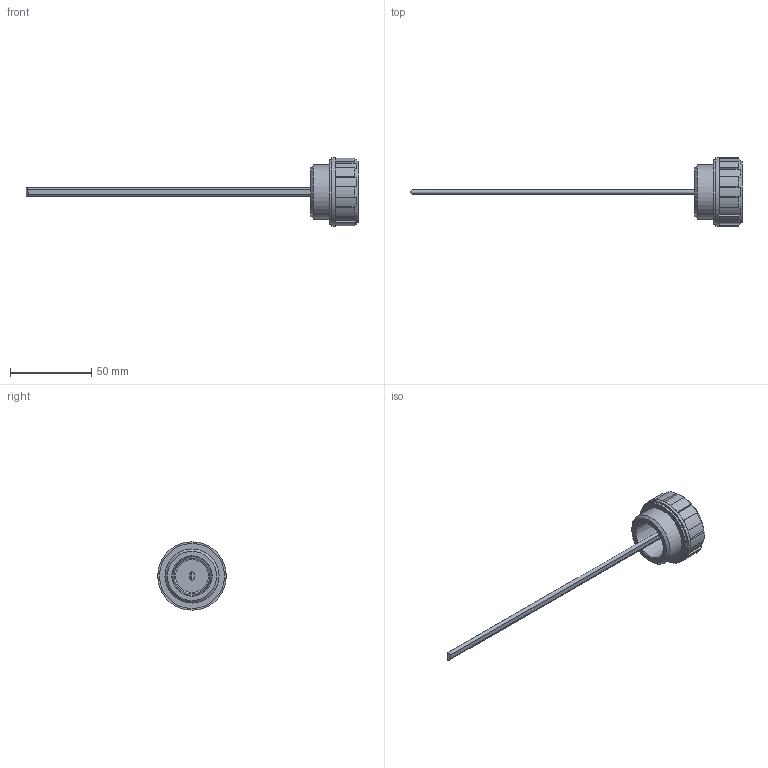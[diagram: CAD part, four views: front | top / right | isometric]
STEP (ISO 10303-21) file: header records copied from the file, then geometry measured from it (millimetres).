
FILE_DESCRIPTION( ( 'STEP AP203' ), '1' );
FILE_NAME( 'C:/Temp/Ganter_Step_05_03_2020/data/3_5/gn548_1/Plug GN 548.1-G1-B.stp', '2020-03-12T13:35:46', ( 'License CC BY-ND 4.0' ), ( 'CADENAS' ), ' ', 'PARTsolutions', ' ' );
FILE_SCHEMA( ( 'CONFIG_CONTROL_DESIGN' ) );
Length unit declared in the file: millimetre
Products named in the file (1): _Plug GN 548.1-G1-B
Bounding box: 204 x 42 x 42 mm (x, y, z)
Volume: 24638.9 mm3; surface area: 10904 mm2
Topology: 1 solids, 1 shells, 62 faces, 159 edges, 105 vertices
Faces by surface type: plane 31, cylinder 26, cone 3, torus 2
Full cylindrical faces by diameter (mm): 33.249 x1, 38.182 x1, 39.9 x1, 42 x1
Entity records: 1909 total; most frequent: CARTESIAN_POINT 376, DIRECTION 315, ORIENTED_EDGE 298, EDGE_CURVE 149, AXIS2_PLACEMENT_3D 123, VERTEX_POINT 104, EDGE_LOOP 77, LINE 69
